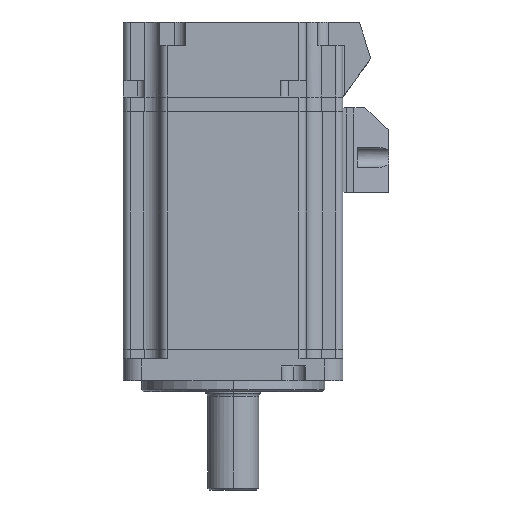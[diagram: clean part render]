
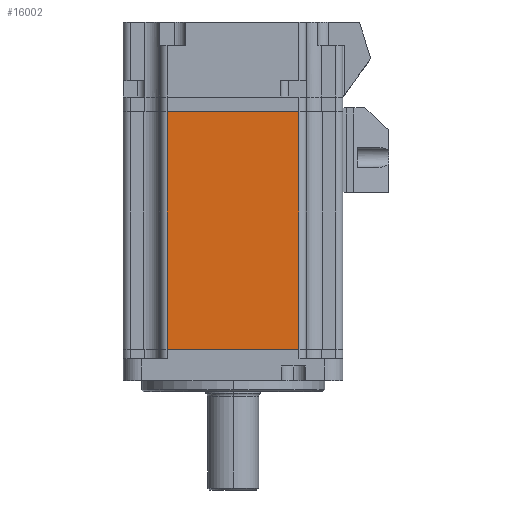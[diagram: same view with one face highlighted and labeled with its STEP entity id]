
A CAD part, left-side view. The second image highlights one B-rep face of the part: STEP entity #16002.
In plain terms, the highlighted planar face has unit normal (-1, 0, 0).
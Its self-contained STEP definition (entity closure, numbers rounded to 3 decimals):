
#72 = CARTESIAN_POINT ( 'NONE',  ( -30., -18., -32.5 ) ) ;
#147 = EDGE_CURVE ( 'NONE', #10121, #2068, #17418, .T. ) ;
#2068 = VERTEX_POINT ( 'NONE', #9617 ) ;
#2551 = CARTESIAN_POINT ( 'NONE',  ( -30., 18., -32.5 ) ) ;
#2695 = VECTOR ( 'NONE', #10198, 1000. ) ;
#3410 = CARTESIAN_POINT ( 'NONE',  ( -30., -18., 32.5 ) ) ;
#3785 = DIRECTION ( 'NONE',  ( -1., 0., 0. ) ) ;
#4444 = DIRECTION ( 'NONE',  ( 0., 1., 0. ) ) ;
#5530 = PLANE ( 'NONE',  #12393 ) ;
#5744 = FACE_OUTER_BOUND ( 'NONE', #19182, .T. ) ;
#5893 = ORIENTED_EDGE ( 'NONE', *, *, #9084, .F. ) ;
#6201 = ORIENTED_EDGE ( 'NONE', *, *, #15961, .T. ) ;
#6414 = VECTOR ( 'NONE', #4444, 1000. ) ;
#6914 = VERTEX_POINT ( 'NONE', #72 ) ;
#7490 = CARTESIAN_POINT ( 'NONE',  ( -30., 0., -32.5 ) ) ;
#8299 = ORIENTED_EDGE ( 'NONE', *, *, #147, .T. ) ;
#8579 = VERTEX_POINT ( 'NONE', #16780 ) ;
#9084 = EDGE_CURVE ( 'NONE', #6914, #2068, #18973, .T. ) ;
#9175 = DIRECTION ( 'NONE',  ( 0., 0., -1. ) ) ;
#9617 = CARTESIAN_POINT ( 'NONE',  ( -30., 18., -32.5 ) ) ;
#10121 = VERTEX_POINT ( 'NONE', #11920 ) ;
#10132 = DIRECTION ( 'NONE',  ( 0., 0., 1. ) ) ;
#10198 = DIRECTION ( 'NONE',  ( 0., 1., 0. ) ) ;
#11562 = LINE ( 'NONE', #3410, #15030 ) ;
#11920 = CARTESIAN_POINT ( 'NONE',  ( -30., 18., 32.5 ) ) ;
#12393 = AXIS2_PLACEMENT_3D ( 'NONE', #20371, #3785, #12478 ) ;
#12478 = DIRECTION ( 'NONE',  ( 0., -1., 0. ) ) ;
#13467 = CARTESIAN_POINT ( 'NONE',  ( -30., 0., 32.5 ) ) ;
#15030 = VECTOR ( 'NONE', #10132, 1000. ) ;
#15092 = LINE ( 'NONE', #13467, #2695 ) ;
#15961 = EDGE_CURVE ( 'NONE', #8579, #10121, #15092, .T. ) ;
#16002 = ADVANCED_FACE ( 'NONE', ( #5744 ), #5530, .T. ) ;
#16234 = ORIENTED_EDGE ( 'NONE', *, *, #19109, .T. ) ;
#16780 = CARTESIAN_POINT ( 'NONE',  ( -30., -18., 32.5 ) ) ;
#17418 = LINE ( 'NONE', #2551, #20939 ) ;
#18973 = LINE ( 'NONE', #7490, #6414 ) ;
#19109 = EDGE_CURVE ( 'NONE', #6914, #8579, #11562, .T. ) ;
#19182 = EDGE_LOOP ( 'NONE', ( #5893, #16234, #6201, #8299 ) ) ;
#20371 = CARTESIAN_POINT ( 'NONE',  ( -30., 0., 32.5 ) ) ;
#20939 = VECTOR ( 'NONE', #9175, 1000. ) ;
